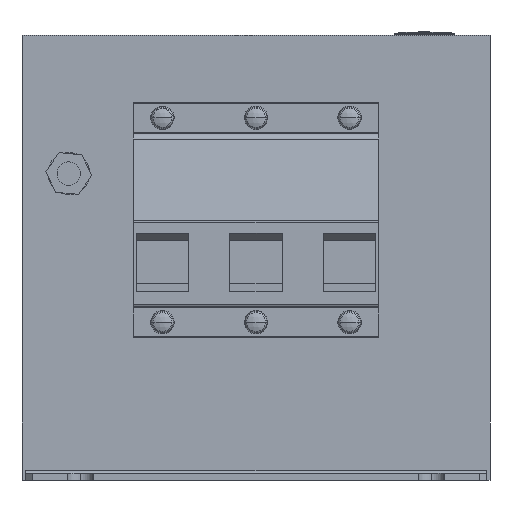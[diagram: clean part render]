
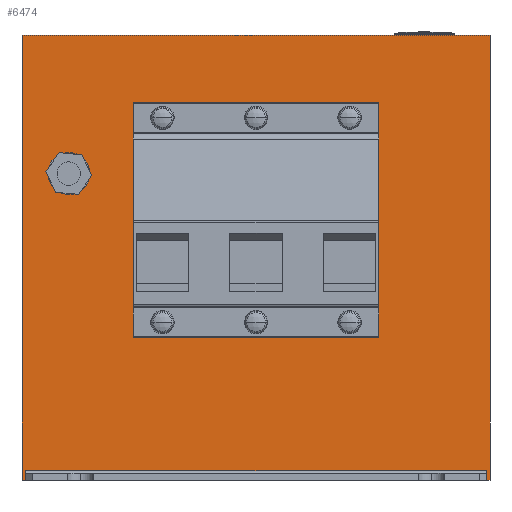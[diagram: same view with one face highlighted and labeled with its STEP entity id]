
A CAD part, front view. The second image highlights one B-rep face of the part: STEP entity #6474.
In plain terms, the highlighted planar face has unit normal (0, -1, 0).
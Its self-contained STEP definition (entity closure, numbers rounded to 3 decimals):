
#52 = CARTESIAN_POINT ( 'NONE',  ( -98.5, 21.5, 122.082 ) ) ;
#111 = EDGE_CURVE ( 'NONE', #4538, #589, #8249, .T. ) ;
#229 = CARTESIAN_POINT ( 'NONE',  ( -52.5, 21.5, 161.5 ) ) ;
#290 = DIRECTION ( 'NONE',  ( 0.837, 0., 0.547 ) ) ;
#339 = VECTOR ( 'NONE', #7227, 1000. ) ;
#417 = DIRECTION ( 'NONE',  ( 0., -1., 0. ) ) ;
#540 = EDGE_CURVE ( 'NONE', #1435, #3756, #1189, .T. ) ;
#589 = VERTEX_POINT ( 'NONE', #2736 ) ;
#776 = DIRECTION ( 'NONE',  ( -1., 0., 0. ) ) ;
#817 = VECTOR ( 'NONE', #6303, 1000. ) ;
#1006 = ORIENTED_EDGE ( 'NONE', *, *, #111, .F. ) ;
#1024 = VECTOR ( 'NONE', #1910, 1000. ) ;
#1189 = LINE ( 'NONE', #4353, #7520 ) ;
#1190 = CARTESIAN_POINT ( 'NONE',  ( 52.5, 21.5, 60.8 ) ) ;
#1339 = VERTEX_POINT ( 'NONE', #10071 ) ;
#1389 = VERTEX_POINT ( 'NONE', #229 ) ;
#1408 = CARTESIAN_POINT ( 'NONE',  ( -52.5, 21.5, 60.8 ) ) ;
#1420 = EDGE_CURVE ( 'NONE', #1878, #4538, #3260, .T. ) ;
#1435 = VERTEX_POINT ( 'NONE', #2583 ) ;
#1500 = LINE ( 'NONE', #4664, #1721 ) ;
#1603 = ORIENTED_EDGE ( 'NONE', *, *, #540, .F. ) ;
#1649 = EDGE_CURVE ( 'NONE', #1339, #8022, #1500, .T. ) ;
#1677 = DIRECTION ( 'NONE',  ( 0., 1., 0. ) ) ;
#1679 = VERTEX_POINT ( 'NONE', #7104 ) ;
#1709 = DIRECTION ( 'NONE',  ( -1., 0., 0. ) ) ;
#1721 = VECTOR ( 'NONE', #776, 1000. ) ;
#1878 = VERTEX_POINT ( 'NONE', #3402 ) ;
#1910 = DIRECTION ( 'NONE',  ( 0., 0., 1. ) ) ;
#2189 = ORIENTED_EDGE ( 'NONE', *, *, #4527, .F. ) ;
#2345 = CARTESIAN_POINT ( 'NONE',  ( -100., 21.5, 187.5 ) ) ;
#2442 = LINE ( 'NONE', #4935, #339 ) ;
#2583 = CARTESIAN_POINT ( 'NONE',  ( 100., 21.5, 190. ) ) ;
#2736 = CARTESIAN_POINT ( 'NONE',  ( -98.5, 21.5, 4. ) ) ;
#2789 = LINE ( 'NONE', #10008, #6891 ) ;
#2791 = EDGE_CURVE ( 'NONE', #1389, #3794, #2789, .T. ) ;
#2797 = CARTESIAN_POINT ( 'NONE',  ( 98.5, 21.5, 4. ) ) ;
#2884 = ORIENTED_EDGE ( 'NONE', *, *, #5970, .T. ) ;
#2904 = DIRECTION ( 'NONE',  ( -1., 0., 0. ) ) ;
#3004 = CARTESIAN_POINT ( 'NONE',  ( 98.5, 21.5, 4. ) ) ;
#3015 = ORIENTED_EDGE ( 'NONE', *, *, #4084, .T. ) ;
#3260 = LINE ( 'NONE', #5029, #4697 ) ;
#3267 = CARTESIAN_POINT ( 'NONE',  ( -72.465, 21.5, 135.922 ) ) ;
#3402 = CARTESIAN_POINT ( 'NONE',  ( 98.5, 21.5, 0. ) ) ;
#3507 = LINE ( 'NONE', #9107, #9613 ) ;
#3509 = FACE_BOUND ( 'NONE', #7904, .T. ) ;
#3517 = CARTESIAN_POINT ( 'NONE',  ( 52.5, 21.5, 60.8 ) ) ;
#3526 = DIRECTION ( 'NONE',  ( 1., 0., 0. ) ) ;
#3661 = VECTOR ( 'NONE', #9483, 1000. ) ;
#3756 = VERTEX_POINT ( 'NONE', #5903 ) ;
#3794 = VERTEX_POINT ( 'NONE', #6688 ) ;
#3936 = CARTESIAN_POINT ( 'NONE',  ( -100., 21.5, 190. ) ) ;
#4084 = EDGE_CURVE ( 'NONE', #8238, #7855, #5747, .T. ) ;
#4353 = CARTESIAN_POINT ( 'NONE',  ( 100., 21.5, 187.5 ) ) ;
#4527 = EDGE_CURVE ( 'NONE', #5757, #7339, #8373, .T. ) ;
#4538 = VERTEX_POINT ( 'NONE', #3004 ) ;
#4664 = CARTESIAN_POINT ( 'NONE',  ( -100., 21.5, 0. ) ) ;
#4697 = VECTOR ( 'NONE', #7168, 1000. ) ;
#4879 = DIRECTION ( 'NONE',  ( 1., 0., 0. ) ) ;
#4900 = CARTESIAN_POINT ( 'NONE',  ( -100., 21.5, 0. ) ) ;
#4935 = CARTESIAN_POINT ( 'NONE',  ( -52.5, 21.5, 161.5 ) ) ;
#5029 = CARTESIAN_POINT ( 'NONE',  ( 98.5, 21.5, 2.5 ) ) ;
#5229 = EDGE_LOOP ( 'NONE', ( #2884, #3015 ) ) ;
#5344 = EDGE_CURVE ( 'NONE', #589, #1339, #5576, .T. ) ;
#5576 = LINE ( 'NONE', #52, #817 ) ;
#5747 = CIRCLE ( 'NONE', #5921, 9. ) ;
#5757 = VERTEX_POINT ( 'NONE', #9497 ) ;
#5903 = CARTESIAN_POINT ( 'NONE',  ( 100., 21.5, 0. ) ) ;
#5921 = AXIS2_PLACEMENT_3D ( 'NONE', #7150, #9524, #9365 ) ;
#5932 = DIRECTION ( 'NONE',  ( 1., 0., 0. ) ) ;
#5940 = EDGE_CURVE ( 'NONE', #1389, #5757, #2442, .T. ) ;
#5948 = FACE_BOUND ( 'NONE', #5229, .T. ) ;
#5962 = ORIENTED_EDGE ( 'NONE', *, *, #1649, .F. ) ;
#5970 = EDGE_CURVE ( 'NONE', #7855, #8238, #6959, .T. ) ;
#6240 = ORIENTED_EDGE ( 'NONE', *, *, #8507, .F. ) ;
#6287 = AXIS2_PLACEMENT_3D ( 'NONE', #7996, #1677, #290 ) ;
#6303 = DIRECTION ( 'NONE',  ( 0., 0., -1. ) ) ;
#6327 = LINE ( 'NONE', #3936, #3661 ) ;
#6474 = ADVANCED_FACE ( 'NONE', ( #3509, #9891, #5948 ), #9109, .T. ) ;
#6688 = CARTESIAN_POINT ( 'NONE',  ( 52.5, 21.5, 161.5 ) ) ;
#6727 = ORIENTED_EDGE ( 'NONE', *, *, #9388, .F. ) ;
#6731 = CARTESIAN_POINT ( 'NONE',  ( -87.535, 21.5, 126.078 ) ) ;
#6845 = VECTOR ( 'NONE', #8784, 1000. ) ;
#6891 = VECTOR ( 'NONE', #3526, 1000. ) ;
#6959 = CIRCLE ( 'NONE', #6287, 9. ) ;
#7104 = CARTESIAN_POINT ( 'NONE',  ( -100., 21.5, 190. ) ) ;
#7150 = CARTESIAN_POINT ( 'NONE',  ( -80., 21.5, 131. ) ) ;
#7168 = DIRECTION ( 'NONE',  ( 0., 0., 1. ) ) ;
#7227 = DIRECTION ( 'NONE',  ( 0., 0., -1. ) ) ;
#7339 = VERTEX_POINT ( 'NONE', #3517 ) ;
#7515 = DIRECTION ( 'NONE',  ( 0., 0., -1. ) ) ;
#7520 = VECTOR ( 'NONE', #7515, 1000. ) ;
#7609 = EDGE_LOOP ( 'NONE', ( #1603, #7622, #7757, #5962, #7659, #1006, #8255, #6240 ) ) ;
#7622 = ORIENTED_EDGE ( 'NONE', *, *, #8486, .F. ) ;
#7659 = ORIENTED_EDGE ( 'NONE', *, *, #5344, .F. ) ;
#7757 = ORIENTED_EDGE ( 'NONE', *, *, #10023, .F. ) ;
#7855 = VERTEX_POINT ( 'NONE', #6731 ) ;
#7904 = EDGE_LOOP ( 'NONE', ( #6727, #2189, #8745, #9445 ) ) ;
#7996 = CARTESIAN_POINT ( 'NONE',  ( -80., 21.5, 131. ) ) ;
#8022 = VERTEX_POINT ( 'NONE', #4900 ) ;
#8238 = VERTEX_POINT ( 'NONE', #3267 ) ;
#8249 = LINE ( 'NONE', #2797, #9325 ) ;
#8255 = ORIENTED_EDGE ( 'NONE', *, *, #1420, .F. ) ;
#8373 = LINE ( 'NONE', #1408, #9069 ) ;
#8486 = EDGE_CURVE ( 'NONE', #1679, #1435, #6327, .T. ) ;
#8507 = EDGE_CURVE ( 'NONE', #3756, #1878, #3507, .T. ) ;
#8745 = ORIENTED_EDGE ( 'NONE', *, *, #5940, .F. ) ;
#8784 = DIRECTION ( 'NONE',  ( 0., 0., 1. ) ) ;
#8999 = CARTESIAN_POINT ( 'NONE',  ( -100., 21.5, 1.5 ) ) ;
#9069 = VECTOR ( 'NONE', #5932, 1000. ) ;
#9107 = CARTESIAN_POINT ( 'NONE',  ( -100., 21.5, 0. ) ) ;
#9109 = PLANE ( 'NONE',  #10105 ) ;
#9325 = VECTOR ( 'NONE', #2904, 1000. ) ;
#9365 = DIRECTION ( 'NONE',  ( 0.837, 0., 0.547 ) ) ;
#9388 = EDGE_CURVE ( 'NONE', #7339, #3794, #10003, .T. ) ;
#9445 = ORIENTED_EDGE ( 'NONE', *, *, #2791, .T. ) ;
#9483 = DIRECTION ( 'NONE',  ( 1., 0., 0. ) ) ;
#9497 = CARTESIAN_POINT ( 'NONE',  ( -52.5, 21.5, 60.8 ) ) ;
#9508 = LINE ( 'NONE', #2345, #6845 ) ;
#9524 = DIRECTION ( 'NONE',  ( 0., 1., 0. ) ) ;
#9613 = VECTOR ( 'NONE', #1709, 1000. ) ;
#9891 = FACE_OUTER_BOUND ( 'NONE', #7609, .T. ) ;
#10003 = LINE ( 'NONE', #1190, #1024 ) ;
#10008 = CARTESIAN_POINT ( 'NONE',  ( -52.5, 21.5, 161.5 ) ) ;
#10023 = EDGE_CURVE ( 'NONE', #8022, #1679, #9508, .T. ) ;
#10071 = CARTESIAN_POINT ( 'NONE',  ( -98.5, 21.5, 0. ) ) ;
#10105 = AXIS2_PLACEMENT_3D ( 'NONE', #8999, #417, #4879 ) ;
